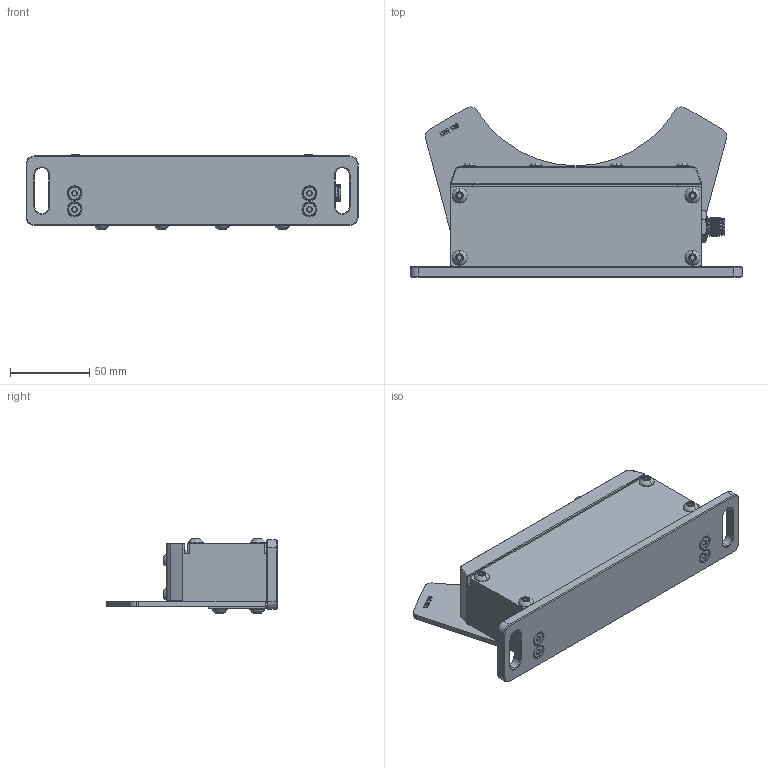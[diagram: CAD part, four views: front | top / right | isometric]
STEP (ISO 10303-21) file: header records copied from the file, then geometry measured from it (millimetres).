
FILE_DESCRIPTION (( 'STEP AP203' ), '1' );
FILE_NAME ('ATQ10SM-D12.STEP', '2019-02-01T20:04:58', ( '' ), ( '' ), 'SwSTEP 2.0', 'SolidWorks 2018', '' );
FILE_SCHEMA (( 'CONFIG_CONTROL_DESIGN' ));
Length unit declared in the file: inch
Products named in the file (1): ATQ10SM-D12
Bounding box: 209.98 x 107.52 x 47.03 mm (x, y, z)
Volume: 477067.7 mm3; surface area: 93428.5 mm2
Topology: 7 solids, 25 shells, 887 faces, 2001 edges, 1213 vertices
Faces by surface type: plane 330, cylinder 241, cone 192, bspline 63, sphere 49, torus 12
Entity records: 31029 total; most frequent: CARTESIAN_POINT 11622, DIRECTION 4004, ORIENTED_EDGE 3936, EDGE_CURVE 1968, AXIS2_PLACEMENT_3D 1572, VERTEX_POINT 1197, EDGE_LOOP 1003, ADVANCED_FACE 887
